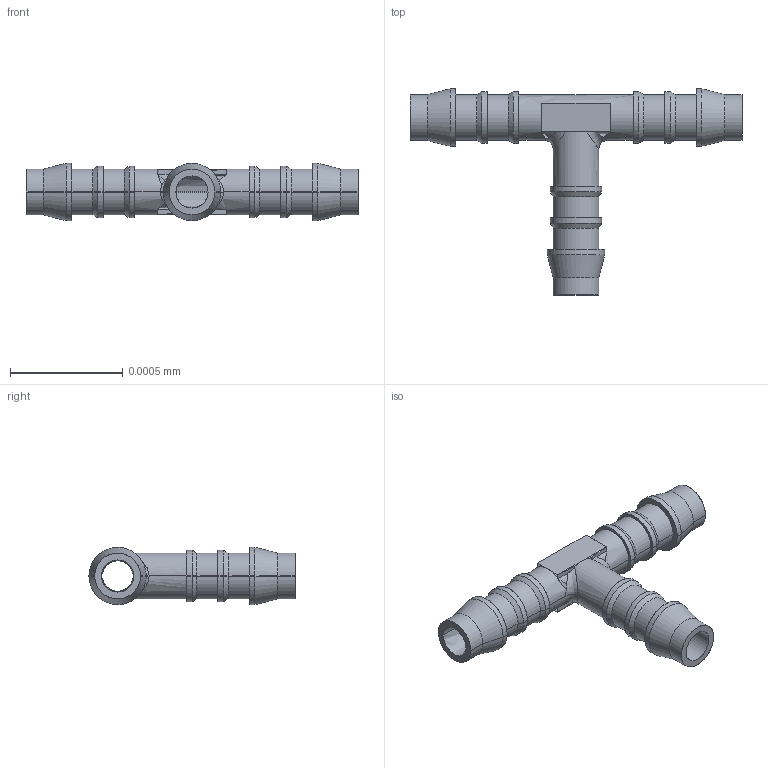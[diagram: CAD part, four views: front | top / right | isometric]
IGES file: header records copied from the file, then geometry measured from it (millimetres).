
Start section: SolidWorks IGES file using analytic representation for surfaces
Global section: file name: K:\Disegni Esecutivi\SERIE 14000\DOK\IGES\142300095X700.IGS; native system: SolidWorks 2020; preprocessor: SolidWorks 2020; author: cad06; date: 240507.164855; units: mil
Bounding box: 0 x 0 x 0 mm (x, y, z)
Surface area: 0 mm2 (no closed solid volume)
Topology: 0 solids, 0 shells, 94 faces, 1264 edges, 1264 vertices
Faces by surface type: revolution 62, bspline 32
